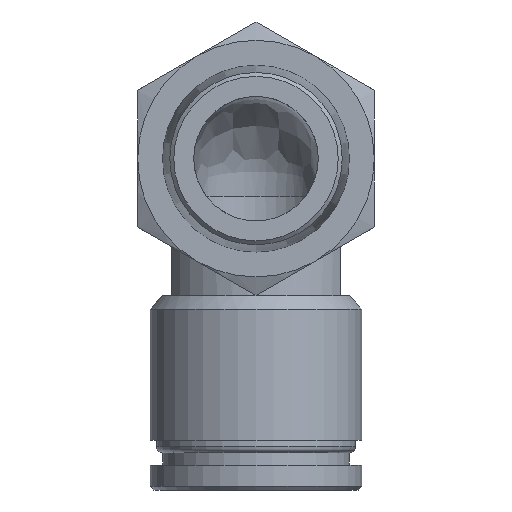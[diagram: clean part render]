
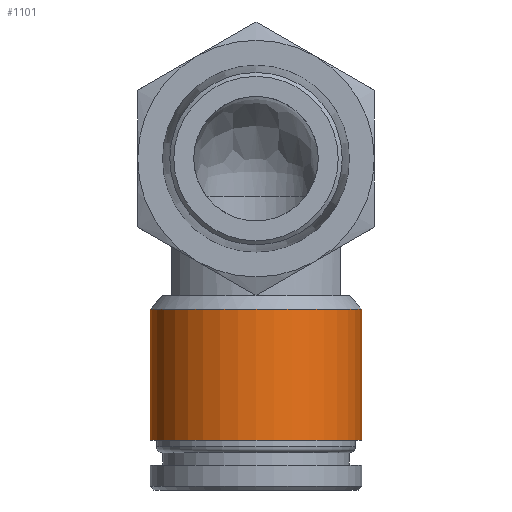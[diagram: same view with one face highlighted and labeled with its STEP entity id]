
A CAD part, front view. The second image highlights one B-rep face of the part: STEP entity #1101.
In plain terms, the highlighted cylindrical face has radius 8.5 mm (diameter 17 mm), a full revolution.
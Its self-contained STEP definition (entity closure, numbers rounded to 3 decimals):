
#79=CYLINDRICAL_SURFACE('',#1245,8.5);
#142=FACE_OUTER_BOUND('',#217,.T.);
#217=EDGE_LOOP('',(#960,#961,#962,#963));
#278=CIRCLE('',#1238,8.5);
#281=CIRCLE('',#1244,8.5);
#351=LINE('',#1932,#423);
#423=VECTOR('',#1549,8.5);
#522=VERTEX_POINT('',#1919);
#524=VERTEX_POINT('',#1929);
#669=EDGE_CURVE('',#522,#522,#278,.T.);
#673=EDGE_CURVE('',#524,#524,#281,.T.);
#674=EDGE_CURVE('',#522,#524,#351,.T.);
#960=ORIENTED_EDGE('',*,*,#669,.F.);
#961=ORIENTED_EDGE('',*,*,#674,.T.);
#962=ORIENTED_EDGE('',*,*,#673,.T.);
#963=ORIENTED_EDGE('',*,*,#674,.F.);
#1101=ADVANCED_FACE('',(#142),#79,.T.);
#1238=AXIS2_PLACEMENT_3D('',#1921,#1532,#1533);
#1244=AXIS2_PLACEMENT_3D('',#1930,#1545,#1546);
#1245=AXIS2_PLACEMENT_3D('',#1931,#1547,#1548);
#1532=DIRECTION('center_axis',(0.,0.,1.));
#1533=DIRECTION('ref_axis',(1.,0.,0.));
#1545=DIRECTION('center_axis',(0.,0.,1.));
#1546=DIRECTION('ref_axis',(1.,0.,0.));
#1547=DIRECTION('center_axis',(0.,0.,1.));
#1548=DIRECTION('ref_axis',(0.,-1.,0.));
#1549=DIRECTION('',(0.,0.,-1.));
#1919=CARTESIAN_POINT('',(0.,20.2,-12.1));
#1921=CARTESIAN_POINT('Origin',(0.,11.7,-12.1));
#1929=CARTESIAN_POINT('',(0.,20.2,-22.6));
#1930=CARTESIAN_POINT('Origin',(0.,11.7,-22.6));
#1931=CARTESIAN_POINT('Origin',(0.,11.7,-17.35));
#1932=CARTESIAN_POINT('',(0.,20.2,-17.35));
